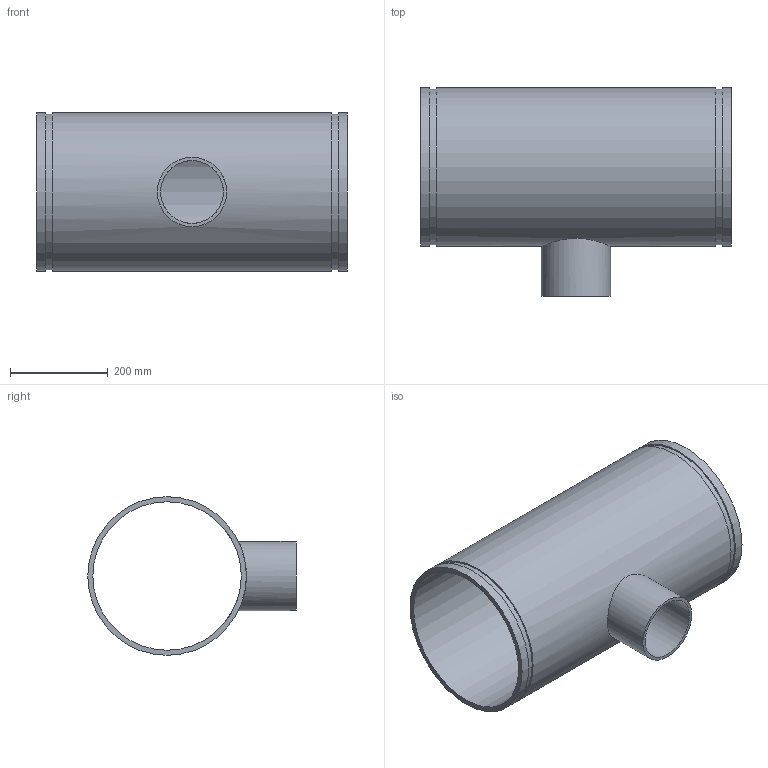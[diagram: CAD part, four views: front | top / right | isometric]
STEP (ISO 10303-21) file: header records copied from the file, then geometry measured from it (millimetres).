
FILE_DESCRIPTION(/* description */ ('VIC REDUCING TEE No 29T FFT (OGSxMPT)','CAx-IF Rec.Pracs.---Representation and Presentation of Product Manufacturing Information (PMI)---4.0---2014-10-13'),/* implementation_level */ '2;1');
FILE_NAME(/* name */ 'C:\Users\kkamble\AppData\Roaming\Autodesk\ApplicationPlugins\Back Up\Victaulic_IPS_Tee Reducing_No 29T FFT (OGSxMPT)\Victaulic_IPS_Tee Reducing_No 29T FFT (OGSxMPT)_12.0x05.0 (300x125).stp',/* time_stamp */ '2020-09-16T22:39:18+05:00',/* author */ ('CORINNE GRAY'),/* organization */ ('Victaulic'),/* preprocessor_version */ 'ST-DEVELOPER v17.2',/* originating_system */ 'Autodesk Inventor 2019',/* authorisation */ '');
FILE_SCHEMA (('AP242_MANAGED_MODEL_BASED_3D_ENGINEERING_MIM_LF { 1 0 10303 442 1 1 4 }'));
Length unit declared in the file: inch
Products named in the file (1): 29 FFT-12.0x05.0
Bounding box: 635 x 425.58 x 323.85 mm (x, y, z)
Volume: 6545299 mm3; surface area: 1352188.1 mm2
Topology: 1 solids, 1 shells, 15 faces, 32 edges, 24 vertices
Faces by surface type: cylinder 8, plane 7
Full cylindrical faces by diameter (mm): 128.194 x1, 141.3 x1, 303.225 x1, 318.287 x2, 323.85 x3
Entity records: 709 total; most frequent: CARTESIAN_POINT 221, DIRECTION 106, ORIENTED_EDGE 64, AXIS2_PLACEMENT_3D 49, EDGE_CURVE 32, EDGE_LOOP 24, VERTEX_POINT 24, CIRCLE 20
